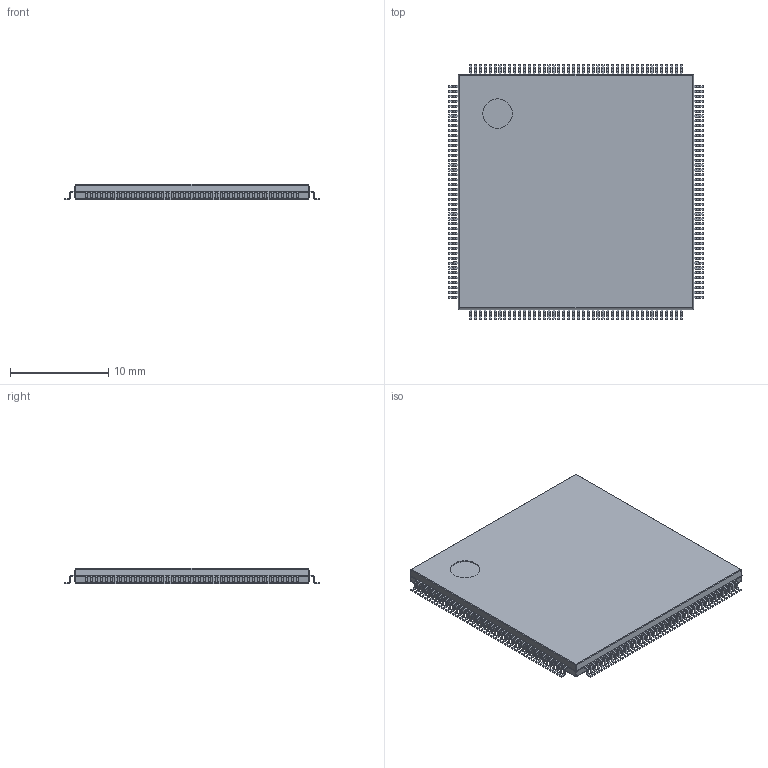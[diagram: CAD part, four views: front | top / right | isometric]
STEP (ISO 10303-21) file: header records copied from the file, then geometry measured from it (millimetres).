
FILE_DESCRIPTION(('Open CASCADE Model'),'2;1');
FILE_NAME('Open CASCADE Shape Model','2026-03-27T17:05:20',('Author'),( 'Open CASCADE'),'Open CASCADE STEP processor 7.5','Open CASCADE 7.5' ,'Unknown');
FILE_SCHEMA(('AUTOMOTIVE_DESIGN { 1 0 10303 214 1 1 1 1 }'));
Length unit declared in the file: millimetre
Products named in the file (8): PCB; Designator1; 7671565232; Open CASCADE STEP translator 7.5 46.1; Body; Open CASCADE STEP translator 7.5 46.2.1; Leader
Assembly tree (180 placements, depth 4):
  PCB
  Designator1
    7671565232
      Open CASCADE STEP translator 7.5 46.1
      Body
        Open CASCADE STEP translator 7.5 46.2.1
      Leader  x88
      Leader  x88
Bounding box: 26 x 26 x 1.6 mm (x, y, z)
Volume: 907 mm3; surface area: 1481.8 mm2
Topology: 177 solids, 178 shells, 3933 faces, 7868 edges, 4283 vertices
Faces by surface type: plane 3184, cylinder 733, bspline 8, sphere 8
Full cylindrical faces by diameter (mm): 3 x1
Entity records: 4815 total; most frequent: CARTESIAN_POINT 1429, DIRECTION 771, ORIENTED_EDGE 407, AXIS2_PLACEMENT_3D 321, EDGE_CURVE 204, PRODUCT_DEFINITION_SHAPE 188, CONTEXT_DEPENDENT_SHAPE_REPRESENTATION 180, ITEM_DEFINED_TRANSFORMATION 180
